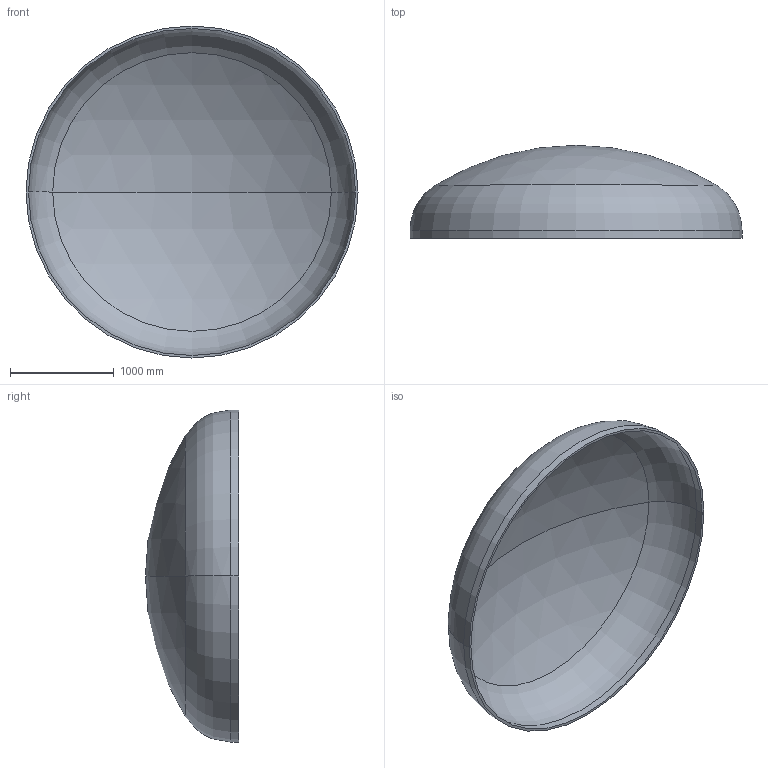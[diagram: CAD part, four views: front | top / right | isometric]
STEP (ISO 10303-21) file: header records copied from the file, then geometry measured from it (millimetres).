
FILE_DESCRIPTION (( 'STEP AP203' ), '1' );
FILE_NAME ('DIN 28013 Korbbogenform_-_Boden DIN 28013 - 3200 x 75 - I - s=24.step', '2016-07-01T18:26:30', ( '' ), ( '' ), 'SwSTEP 2.0', 'SolidWorks 2013', '' );
FILE_SCHEMA (( 'CONFIG_CONTROL_DESIGN' ));
Length unit declared in the file: millimetre
Products named in the file (1): DIN 28013 Korbbogenform_-_Boden DIN 28013 - 3200 x 75 - I - s=24
Bounding box: 3200 x 896.76 x 3200 mm (x, y, z)
Volume: 282359464.1 mm3; surface area: 23770617.5 mm2
Topology: 1 solids, 1 shells, 13 faces, 24 edges, 14 vertices
Faces by surface type: torus 4, cylinder 4, sphere 4, plane 1
Entity records: 407 total; most frequent: DIRECTION 72, CARTESIAN_POINT 52, ORIENTED_EDGE 48, AXIS2_PLACEMENT_3D 34, EDGE_CURVE 24, CIRCLE 20, EDGE_LOOP 14, VERTEX_POINT 14
